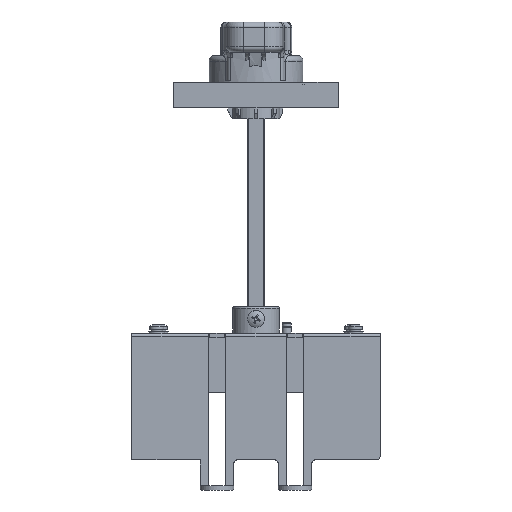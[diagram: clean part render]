
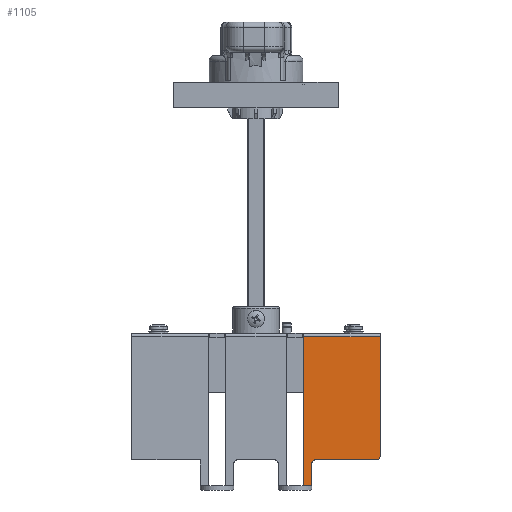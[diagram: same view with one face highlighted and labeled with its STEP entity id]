
A CAD part, front view. The second image highlights one B-rep face of the part: STEP entity #1105.
In plain terms, the highlighted planar face has unit normal (0, -1, 0).
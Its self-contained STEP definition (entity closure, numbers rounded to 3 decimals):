
#505=FACE_OUTER_BOUND('',#2509,.T.);
#1105=ADVANCED_FACE('',(#505),#1823,.T.);
#1823=PLANE('',#12365);
#2509=EDGE_LOOP('',(#4044,#4045,#4046,#4047,#4048,#4049,#4050,#4051));
#3384=CIRCLE('',#12363,2.);
#3385=CIRCLE('',#12364,2.);
#4044=ORIENTED_EDGE('',*,*,#8654,.F.);
#4045=ORIENTED_EDGE('',*,*,#8655,.T.);
#4046=ORIENTED_EDGE('',*,*,#8656,.F.);
#4047=ORIENTED_EDGE('',*,*,#8657,.F.);
#4048=ORIENTED_EDGE('',*,*,#8658,.F.);
#4049=ORIENTED_EDGE('',*,*,#8659,.T.);
#4050=ORIENTED_EDGE('',*,*,#8660,.T.);
#4051=ORIENTED_EDGE('',*,*,#8661,.T.);
#7492=VERTEX_POINT('',#17592);
#7493=VERTEX_POINT('',#17593);
#7494=VERTEX_POINT('',#17595);
#7495=VERTEX_POINT('',#17597);
#7496=VERTEX_POINT('',#17599);
#7497=VERTEX_POINT('',#17601);
#7498=VERTEX_POINT('',#17603);
#7499=VERTEX_POINT('',#17605);
#8654=EDGE_CURVE('',#7492,#7493,#10350,.T.);
#8655=EDGE_CURVE('',#7492,#7494,#10351,.T.);
#8656=EDGE_CURVE('',#7495,#7494,#10352,.T.);
#8657=EDGE_CURVE('',#7496,#7495,#10353,.T.);
#8658=EDGE_CURVE('',#7497,#7496,#10354,.T.);
#8659=EDGE_CURVE('',#7497,#7498,#3384,.T.);
#8660=EDGE_CURVE('',#7498,#7499,#10355,.T.);
#8661=EDGE_CURVE('',#7499,#7493,#3385,.T.);
#10350=LINE('',#17591,#11370);
#10351=LINE('',#17594,#11371);
#10352=LINE('',#17596,#11372);
#10353=LINE('',#17598,#11373);
#10354=LINE('',#17600,#11374);
#10355=LINE('',#17604,#11375);
#11370=VECTOR('',#13820,1.);
#11371=VECTOR('',#13821,1.);
#11372=VECTOR('',#13822,1.);
#11373=VECTOR('',#13823,1.);
#11374=VECTOR('',#13824,1.);
#11375=VECTOR('',#13827,1.);
#12363=AXIS2_PLACEMENT_3D('',#17602,#13825,#13826);
#12364=AXIS2_PLACEMENT_3D('',#17606,#13828,#13829);
#12365=AXIS2_PLACEMENT_3D('',#17607,#13830,#13831);
#13820=DIRECTION('',(0.,0.,-1.));
#13821=DIRECTION('',(-1.,0.,0.));
#13822=DIRECTION('',(0.,0.,1.));
#13823=DIRECTION('',(-1.,0.,0.));
#13824=DIRECTION('',(0.,0.,-1.));
#13825=DIRECTION('',(0.,1.,0.));
#13826=DIRECTION('',(0.,0.,1.));
#13827=DIRECTION('',(1.,0.,0.));
#13828=DIRECTION('',(0.,-1.,0.));
#13829=DIRECTION('',(0.,0.,1.));
#13830=DIRECTION('',(0.,-1.,0.));
#13831=DIRECTION('',(0.,0.,-1.));
#17591=CARTESIAN_POINT('',(75.,-97.5,0.));
#17592=CARTESIAN_POINT('',(75.,-97.5,-2.));
#17593=CARTESIAN_POINT('',(75.,-97.5,-69.5));
#17594=CARTESIAN_POINT('',(-65.,-97.5,-2.));
#17595=CARTESIAN_POINT('',(32.,-97.5,-2.));
#17596=CARTESIAN_POINT('',(32.,-97.5,0.));
#17597=CARTESIAN_POINT('',(32.,-97.5,-86.));
#17598=CARTESIAN_POINT('',(36.5,-97.5,-86.));
#17599=CARTESIAN_POINT('',(36.5,-97.5,-86.));
#17600=CARTESIAN_POINT('',(36.5,-97.5,-71.5));
#17601=CARTESIAN_POINT('',(36.5,-97.5,-73.5));
#17602=CARTESIAN_POINT('',(38.5,-97.5,-73.5));
#17603=CARTESIAN_POINT('',(38.5,-97.5,-71.5));
#17604=CARTESIAN_POINT('',(-65.,-97.5,-71.5));
#17605=CARTESIAN_POINT('',(73.,-97.5,-71.5));
#17606=CARTESIAN_POINT('',(73.,-97.5,-69.5));
#17607=CARTESIAN_POINT('',(-65.,-97.5,0.));
